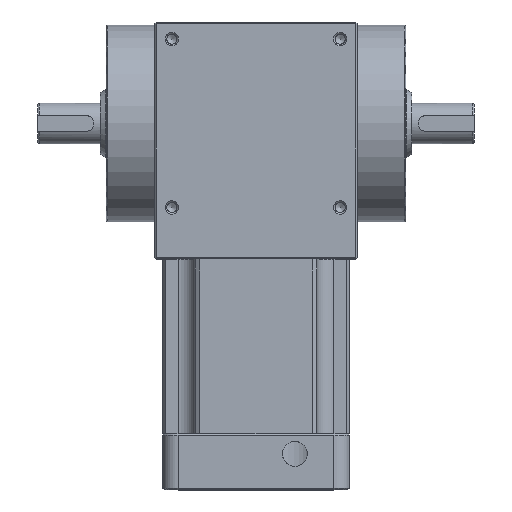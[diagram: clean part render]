
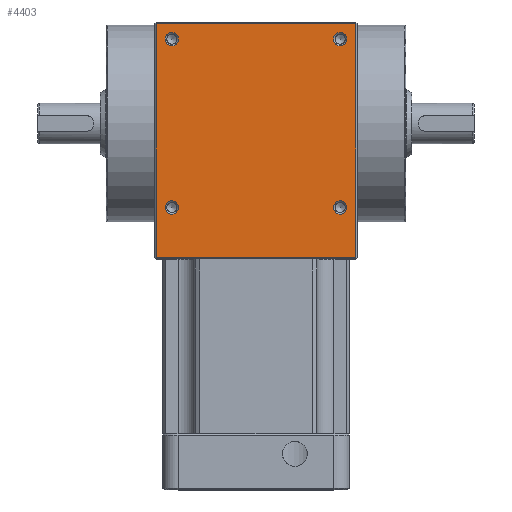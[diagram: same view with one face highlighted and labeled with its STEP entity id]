
A CAD part, top view. The second image highlights one B-rep face of the part: STEP entity #4403.
In plain terms, the highlighted planar face has unit normal (0, 0, 1).
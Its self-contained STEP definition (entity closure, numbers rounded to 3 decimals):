
#4284=CARTESIAN_POINT('',(-32.0,-43.0,65.0));
#4285=VERTEX_POINT('',#4284);
#4292=CARTESIAN_POINT('',(-32.0,32.,65.0));
#4293=VERTEX_POINT('',#4292);
#4294=CARTESIAN_POINT('',(-32.0,32.,65.0));
#4295=DIRECTION('',(0.0,-1.0,0.0));
#4296=VECTOR('',#4295,75.);
#4297=LINE('',#4294,#4296);
#4298=EDGE_CURVE('',#4293,#4285,#4297,.T.);
#4316=CARTESIAN_POINT('',(32.0,-43.0,65.0));
#4317=VERTEX_POINT('',#4316);
#4324=CARTESIAN_POINT('',(32.0,-43.0,65.0));
#4325=DIRECTION('',(-1.0,0.0,0.0));
#4326=VECTOR('',#4325,64.0);
#4327=LINE('',#4324,#4326);
#4328=EDGE_CURVE('',#4317,#4285,#4327,.T.);
#4336=CARTESIAN_POINT('',(0.,0.0,65.0));
#4337=DIRECTION('',(0.0,0.0,1.0));
#4338=DIRECTION('',(1.0,0.0,0.0));
#4339=AXIS2_PLACEMENT_3D('',#4336,#4337,#4338);
#4340=PLANE('',#4339);
#4341=ORIENTED_EDGE('',*,*,#4328,.F.);
#4342=CARTESIAN_POINT('',(32.0,32.0,65.0));
#4343=VERTEX_POINT('',#4342);
#4344=CARTESIAN_POINT('',(32.0,32.0,65.0));
#4345=DIRECTION('',(0.0,-1.0,0.0));
#4346=VECTOR('',#4345,75.0);
#4347=LINE('',#4344,#4346);
#4348=EDGE_CURVE('',#4343,#4317,#4347,.T.);
#4349=ORIENTED_EDGE('',*,*,#4348,.F.);
#4350=CARTESIAN_POINT('',(-32.0,32.0,65.0));
#4351=DIRECTION('',(1.0,0.0,0.0));
#4352=VECTOR('',#4351,64.0);
#4353=LINE('',#4350,#4352);
#4354=EDGE_CURVE('',#4293,#4343,#4353,.T.);
#4355=ORIENTED_EDGE('',*,*,#4354,.F.);
#4356=ORIENTED_EDGE('',*,*,#4298,.T.);
#4357=EDGE_LOOP('',(#4341,#4349,#4355,#4356));
#4358=FACE_OUTER_BOUND('',#4357,.T.);
#4359=CARTESIAN_POINT('',(-24.879,-27.0,65.0));
#4360=VERTEX_POINT('',#4359);
#4361=CARTESIAN_POINT('',(-27.,-27.0,65.0));
#4362=DIRECTION('',(0.0,0.0,1.0));
#4363=DIRECTION('',(-1.0,0.0,0.0));
#4364=AXIS2_PLACEMENT_3D('',#4361,#4362,#4363);
#4365=CIRCLE('',#4364,2.121);
#4366=EDGE_CURVE('',#4360,#4360,#4365,.T.);
#4367=ORIENTED_EDGE('',*,*,#4366,.F.);
#4368=EDGE_LOOP('',(#4367));
#4369=FACE_BOUND('',#4368,.T.);
#4370=CARTESIAN_POINT('',(29.121,27.0,65.0));
#4371=VERTEX_POINT('',#4370);
#4372=CARTESIAN_POINT('',(27.0,27.0,65.0));
#4373=DIRECTION('',(0.0,0.0,1.0));
#4374=DIRECTION('',(-1.0,0.0,0.0));
#4375=AXIS2_PLACEMENT_3D('',#4372,#4373,#4374);
#4376=CIRCLE('',#4375,2.121);
#4377=EDGE_CURVE('',#4371,#4371,#4376,.T.);
#4378=ORIENTED_EDGE('',*,*,#4377,.F.);
#4379=EDGE_LOOP('',(#4378));
#4380=FACE_BOUND('',#4379,.T.);
#4381=CARTESIAN_POINT('',(-24.879,27.0,65.0));
#4382=VERTEX_POINT('',#4381);
#4383=CARTESIAN_POINT('',(-27.,27.0,65.0));
#4384=DIRECTION('',(0.0,0.0,1.0));
#4385=DIRECTION('',(-1.0,0.0,0.0));
#4386=AXIS2_PLACEMENT_3D('',#4383,#4384,#4385);
#4387=CIRCLE('',#4386,2.121);
#4388=EDGE_CURVE('',#4382,#4382,#4387,.T.);
#4389=ORIENTED_EDGE('',*,*,#4388,.F.);
#4390=EDGE_LOOP('',(#4389));
#4391=FACE_BOUND('',#4390,.T.);
#4392=CARTESIAN_POINT('',(29.121,-27.0,65.0));
#4393=VERTEX_POINT('',#4392);
#4394=CARTESIAN_POINT('',(27.,-27.0,65.0));
#4395=DIRECTION('',(0.0,0.0,1.0));
#4396=DIRECTION('',(-1.0,0.0,0.0));
#4397=AXIS2_PLACEMENT_3D('',#4394,#4395,#4396);
#4398=CIRCLE('',#4397,2.121);
#4399=EDGE_CURVE('',#4393,#4393,#4398,.T.);
#4400=ORIENTED_EDGE('',*,*,#4399,.F.);
#4401=EDGE_LOOP('',(#4400));
#4402=FACE_BOUND('',#4401,.T.);
#4403=ADVANCED_FACE('',(#4358,#4369,#4380,#4391,#4402),#4340,.T.);
